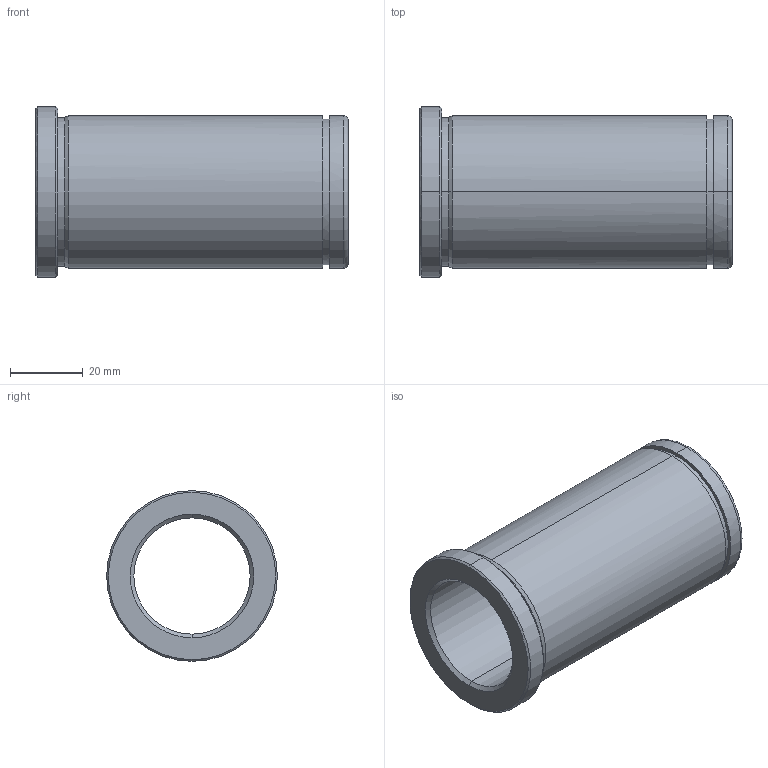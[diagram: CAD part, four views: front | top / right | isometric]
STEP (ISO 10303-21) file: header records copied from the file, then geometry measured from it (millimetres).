
FILE_DESCRIPTION(('CATIA V5 STEP Exchange'),'2;1');
FILE_NAME('C:\Users\Utente\Desktop\IO LAVORO\3D X SITO CF\X SITO\PLASTICA\553\553-32X86.stp','2021-05-26T18:43:47+00:00',('none'),('none'),'CATIA Version 5 Release 20 GA (IN-10)','CATIA V5 STEP AP203','none');
FILE_SCHEMA(('CONFIG_CONTROL_DESIGN'));
Length unit declared in the file: millimetre
Products named in the file (1): 553-32X86
Bounding box: 86 x 47 x 47 mm (x, y, z)
Volume: 51415 mm3; surface area: 21951.3 mm2
Topology: 1 solids, 1 shells, 29 faces, 92 edges, 68 vertices
Faces by surface type: cylinder 12, cone 8, plane 5, torus 4
Entity records: 1228 total; most frequent: CARTESIAN_POINT 378, ORIENTED_EDGE 184, DIRECTION 134, EDGE_CURVE 92, AXIS2_PLACEMENT_3D 86, VERTEX_POINT 68, CIRCLE 56, EDGE_LOOP 34
